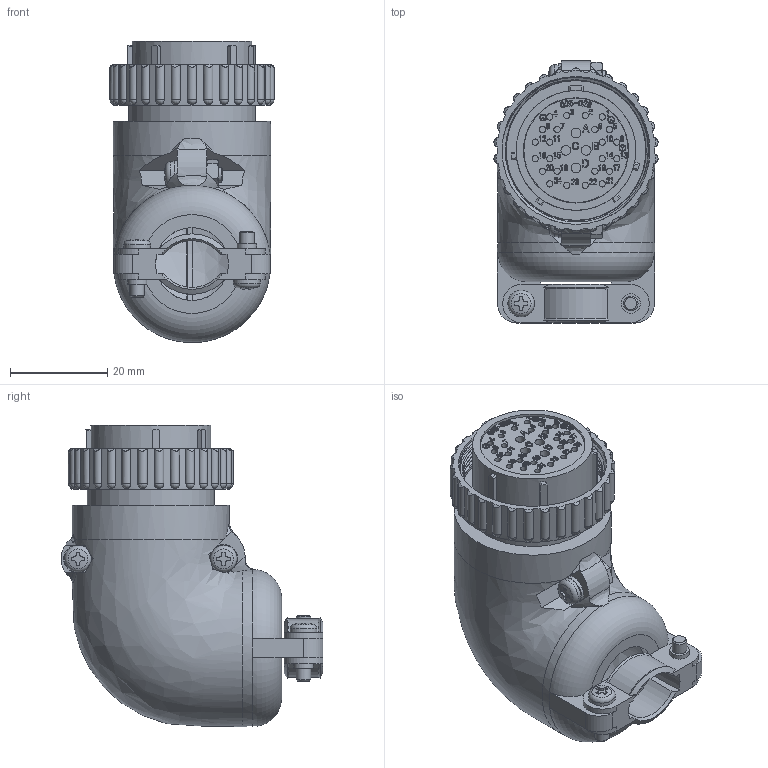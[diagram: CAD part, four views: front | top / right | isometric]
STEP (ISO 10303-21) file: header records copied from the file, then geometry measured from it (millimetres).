
FILE_DESCRIPTION (( 'STEP AP203' ), '1' );
FILE_NAME ('JMLP2528F-D.STEP', '2021-06-29T08:06:15', ( '' ), ( '' ), 'SwSTEP 2.0', 'SolidWorks 2018', '' );
FILE_SCHEMA (( 'CONFIG_CONTROL_DESIGN' ));
Length unit declared in the file: millimetre
Products named in the file (1): JMLP2528F-D
Bounding box: 33.82 x 53.98 x 62.09 mm (x, y, z)
Volume: 25085.5 mm3; surface area: 21041.6 mm2
Topology: 1 solids, 3 shells, 2607 faces, 7104 edges, 4699 vertices
Faces by surface type: plane 1108, bspline 1093, cylinder 261, cone 87, sphere 34, torus 24
Full cylindrical faces by diameter (mm): 1.1 x24, 1.2 x3, 1.3 x24, 1.4 x4, 1.55 x24, 1.6 x5, 1.7 x4, 2 x4, 2.4 x8, 2.6 x4, 3 x8, 3.3 x2, 3.5 x2, 4 x2, 5.5 x2, 15 x1, 21.3 x1, 21.5 x1, 21.7 x1, 23.8 x1, 24.7 x1, 26.2 x1, 28.8 x1, 30.1 x1, 30.5 x1, 32.4 x1, 32.5 x1
Entity records: 115867 total; most frequent: CARTESIAN_POINT 58859, ORIENTED_EDGE 13652, DIRECTION 8035, EDGE_CURVE 6826, VERTEX_POINT 4606, VECTOR 3671, LINE 3671, EDGE_LOOP 2988
